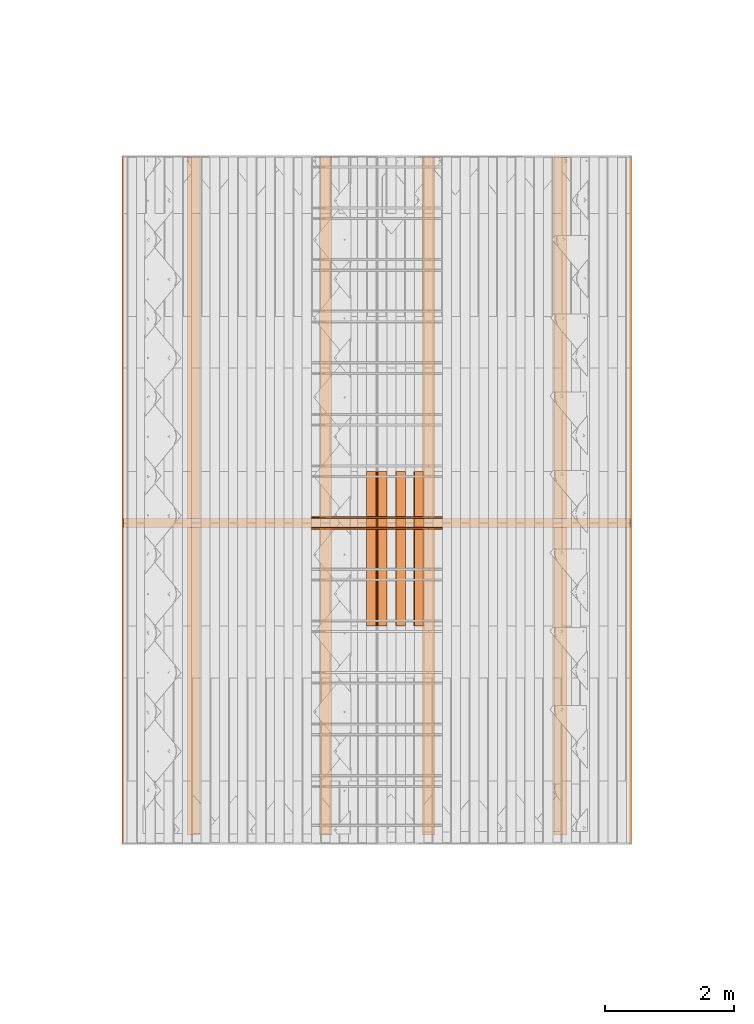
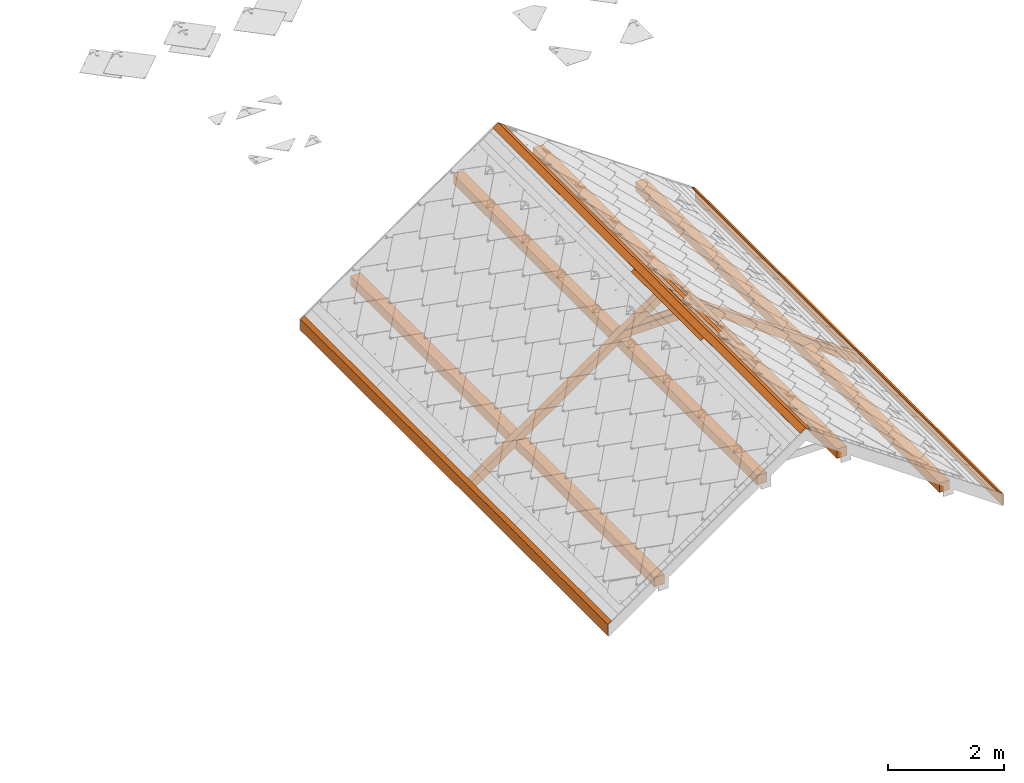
# One storey, part 39 of 133: 9 proxies, 1 element without a shape of its own.
"""IFC2X3 building model written with IfcOpenShell, lengths in millimetres."""

from ifc_helpers import new_model, entity, si_unit, converted_unit, derived_unit, direction, frame, frame_2d, origin, origin_2d_with_axis, place, context, subcontext, project, spatial, polyline, rectangle, outline, extrude, source, transform, mapped, material, type_object, type_shapes, element, aggregate, save


model = new_model("IFC2X3")

# Units and contexts
model_context = context("Model", 3, precision=0.01, world=origin(), true_north=direction((6.12303176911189e-17, 1.0)))
body_context = subcontext(model_context, "Body", "Model", "MODEL_VIEW")
ifc_project = project(units=[si_unit("LENGTHUNIT", "METRE", prefix="MILLI"), si_unit("AREAUNIT", "SQUARE_METRE"), si_unit("VOLUMEUNIT", "CUBIC_METRE"), converted_unit("PLANEANGLEUNIT", "DEGREE", entity("IfcRatioMeasure", 0.0174532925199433), si_unit("PLANEANGLEUNIT", "RADIAN"), dimensions=[0, 0, 0, 0, 0, 0, 0]), si_unit("MASSUNIT", "GRAM", prefix="KILO"), derived_unit("MASSDENSITYUNIT", [(si_unit("MASSUNIT", "GRAM", prefix="KILO"), 1), (si_unit("LENGTHUNIT", "METRE"), -3)]), si_unit("TIMEUNIT", "SECOND"), si_unit("FREQUENCYUNIT", "HERTZ"), si_unit("THERMODYNAMICTEMPERATUREUNIT", "DEGREE_CELSIUS"), derived_unit("THERMALTRANSMITTANCEUNIT", [(si_unit("MASSUNIT", "GRAM", prefix="KILO"), 1), (si_unit("THERMODYNAMICTEMPERATUREUNIT", "KELVIN"), -1), (si_unit("TIMEUNIT", "SECOND"), -3)]), derived_unit("VOLUMETRICFLOWRATEUNIT", [(si_unit("LENGTHUNIT", "METRE"), 3), (si_unit("TIMEUNIT", "SECOND"), -1)]), si_unit("ELECTRICCURRENTUNIT", "AMPERE"), si_unit("ELECTRICVOLTAGEUNIT", "VOLT"), si_unit("POWERUNIT", "WATT"), si_unit("FORCEUNIT", "NEWTON", prefix="KILO"), si_unit("ILLUMINANCEUNIT", "LUX"), si_unit("LUMINOUSFLUXUNIT", "LUMEN"), si_unit("LUMINOUSINTENSITYUNIT", "CANDELA"), derived_unit("USERDEFINED", [(si_unit("MASSUNIT", "GRAM", prefix="KILO"), -1), (si_unit("LENGTHUNIT", "METRE"), -2), (si_unit("TIMEUNIT", "SECOND"), 3), (si_unit("LUMINOUSFLUXUNIT", "LUMEN"), 1)]), derived_unit("LINEARVELOCITYUNIT", [(si_unit("LENGTHUNIT", "METRE"), 1), (si_unit("TIMEUNIT", "SECOND"), -1)]), si_unit("PRESSUREUNIT", "PASCAL"), derived_unit("USERDEFINED", [(si_unit("LENGTHUNIT", "METRE"), -2), (si_unit("MASSUNIT", "GRAM", prefix="KILO"), 1), (si_unit("TIMEUNIT", "SECOND"), -2)])], contexts=[model_context])

# Site, building, storey
site_placement = place(None, origin())
site = spatial("IfcSite", under=ifc_project, at=site_placement, Name="Default", CompositionType="ELEMENT")
building_placement = place(site_placement, origin())
building = spatial("IfcBuilding", under=site, at=building_placement, CompositionType="ELEMENT")
storey_placement = place(building_placement, origin())
storey = spatial("IfcBuildingStorey", under=building, at=storey_placement, Name="Level 1", CompositionType="ELEMENT", Elevation=0.0)

# Assembly, proxies
assembly_placement = place(storey_placement, origin())
assembly = element("IfcElementAssembly", 1, at=assembly_placement, inside=storey, Name="Structural Framing Assembly:Roof Construction Assembly", ObjectType="Structural Framing Assembly:Roof Construction Assembly", AssemblyPlace="NOTDEFINED", PredefinedType="USERDEFINED")
ifc_material_1 = material(Name="Wood - Generic - Wood For Showcase")
building_element_proxy_type_1 = type_object("IfcBuildingElementProxyType", Name="Structural Framing 1", PredefinedType="NOTDEFINED", material=ifc_material_1)
shared_shape_1 = source(origin(), body_context, "Body", "SweptSolid", [
    extrude(outline(polyline([(-929.245683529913, -1327.10037070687), (3863.25950492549, -1327.10037070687), (3975.29271103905, -1167.10037070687), (2778.93361405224, -1167.10037070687), (2713.54351952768, -1260.48710386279), (2580.17344271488, -1167.10037070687), (278.933614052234, -1167.10037070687), (213.543519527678, -1260.48710386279), (80.1734427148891, -1167.10037070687), (-817.212477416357, -1167.10037070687), (-1124.13653843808, -323.833443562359), (-1257.50661525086, -230.446710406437), (-1192.11652072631, -137.059977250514), (-1979.18689675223, 2025.39810840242), (-2112.55697356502, 2118.78484155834), (-2047.16687904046, 2212.17157471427), (-2456.34578886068, 3336.3813899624), (-2568.37899497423, 3176.3813899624), (-929.245683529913, -1327.10037070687)])), frame((1206.77890726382, 3785.55080214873, 1179.90959070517), z_axis=(0.0, 1.0, 0.0), x_axis=(0.819152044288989, 0.0, -0.573576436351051)), (0.0, 0.0, 1.0), 140.0),
])
type_shapes(building_element_proxy_type_1, [shared_shape_1])
proxy_1_placement = place(assembly_placement, frame((0.0, -5600.0, 0.0)))
proxy_1 = element("IfcBuildingElementProxy", 2, at=proxy_1_placement, type_object=building_element_proxy_type_1, material=ifc_material_1, Name="Structural Framing 8:Structural Framing 1", ObjectType="Structural Framing 8:Structural Framing 1", context=body_context, shape_type="MappedRepresentation", body=[
    mapped(shared_shape_1, transform((0.0, 0.0, 0.0), scale=1.0)),
])
building_element_proxy_type_2 = type_object("IfcBuildingElementProxyType", Name="Structural Framing 15", PredefinedType="NOTDEFINED", material=ifc_material_1)
shared_shape_2 = source(origin(), body_context, "Body", "SweptSolid", [
    extrude(rectangle(XDim=24.9999999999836, YDim=174.344679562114, at=frame_2d((2.97539770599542e-13, -4.2632564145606e-14), x_axis=(1.0, 0.0))), frame((1285.35601305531, 1525.55080214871, 2760.23940055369), z_axis=(0.0, 1.0, 0.0), x_axis=(0.573576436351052, 0.0, 0.819152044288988)), (0.0, 0.0, 1.0), 2400.0),
])
type_shapes(building_element_proxy_type_2, [shared_shape_2])
proxy_2_placement = place(assembly_placement, frame((0.0, -4870.0, 0.0)))
proxy_2 = element("IfcBuildingElementProxy", 3, at=proxy_2_placement, type_object=building_element_proxy_type_2, material=ifc_material_1, Name="Structural Framing 157:Structural Framing 15", ObjectType="Structural Framing 157:Structural Framing 15", context=body_context, shape_type="MappedRepresentation", body=[
    mapped(shared_shape_2, transform((0.0, 0.0, 0.0), scale=1.0)),
])
building_element_proxy_type_3 = type_object("IfcBuildingElementProxyType", Name="Structural Framing 15", PredefinedType="NOTDEFINED", material=ifc_material_1)
shared_shape_3 = source(origin(), body_context, "Body", "SweptSolid", [
    extrude(rectangle(XDim=24.9999999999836, YDim=174.344679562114, at=frame_2d((2.97539770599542e-13, -4.2632564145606e-14), x_axis=(1.0, 0.0))), frame((1285.35601305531, 1525.55080214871, 2760.23940055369), z_axis=(0.0, 1.0, 0.0), x_axis=(0.573576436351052, 0.0, 0.819152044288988)), (0.0, 0.0, 1.0), 2400.0),
])
type_shapes(building_element_proxy_type_3, [shared_shape_3])
proxy_3_placement = place(assembly_placement, frame((285.629601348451, -4870.0, -200.0)))
proxy_3 = element("IfcBuildingElementProxy", 4, at=proxy_3_placement, type_object=building_element_proxy_type_3, material=ifc_material_1, Name="Structural Framing 167:Structural Framing 15", ObjectType="Structural Framing 167:Structural Framing 15", context=body_context, shape_type="MappedRepresentation", body=[
    mapped(shared_shape_3, transform((0.0, 0.0, 0.0), scale=1.0)),
])
building_element_proxy_type_4 = type_object("IfcBuildingElementProxyType", Name="Structural Framing 15", PredefinedType="NOTDEFINED", material=ifc_material_1)
shared_shape_4 = source(origin(), body_context, "Body", "SweptSolid", [
    extrude(rectangle(XDim=24.9999999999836, YDim=174.344679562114, at=frame_2d((2.97539770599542e-13, -4.2632564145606e-14), x_axis=(1.0, 0.0))), frame((1285.35601305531, 1525.55080214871, 2760.23940055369), z_axis=(0.0, 1.0, 0.0), x_axis=(0.573576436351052, 0.0, 0.819152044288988)), (0.0, 0.0, 1.0), 2400.0),
])
type_shapes(building_element_proxy_type_4, [shared_shape_4])
proxy_4_placement = place(assembly_placement, frame((571.259202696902, -4870.0, -400.0)))
proxy_4 = element("IfcBuildingElementProxy", 5, at=proxy_4_placement, type_object=building_element_proxy_type_4, material=ifc_material_1, Name="Structural Framing 177:Structural Framing 15", ObjectType="Structural Framing 177:Structural Framing 15", context=body_context, shape_type="MappedRepresentation", body=[
    mapped(shared_shape_4, transform((0.0, 0.0, 0.0), scale=1.0)),
])
building_element_proxy_type_5 = type_object("IfcBuildingElementProxyType", Name="Structural Framing 15", PredefinedType="NOTDEFINED", material=ifc_material_1)
shared_shape_5 = source(origin(), body_context, "Body", "SweptSolid", [
    extrude(rectangle(XDim=24.9999999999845, YDim=174.344679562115, at=frame_2d((-1.77635683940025e-13, -4.54747350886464e-13), x_axis=(0.0, 1.0))), frame((1128.20180147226, 1525.55080214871, 2760.23940055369), z_axis=(0.0, 1.0, 0.0), x_axis=(-0.819152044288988, 0.0, -0.573576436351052)), (0.0, 0.0, 1.0), 2400.0),
])
type_shapes(building_element_proxy_type_5, [shared_shape_5])
proxy_5_placement = place(assembly_placement, frame((0.0, -4870.0, 0.0)))
proxy_5 = element("IfcBuildingElementProxy", 6, at=proxy_5_placement, type_object=building_element_proxy_type_5, material=ifc_material_1, Name="Structural Framing 17:Structural Framing 15", ObjectType="Structural Framing 17:Structural Framing 15", context=body_context, shape_type="MappedRepresentation", body=[
    mapped(shared_shape_5, transform((0.0, 0.0, 0.0), scale=1.0)),
])
building_element_proxy_type_6 = type_object("IfcBuildingElementProxyType", Name="Structural Framing 295", PredefinedType="NOTDEFINED", material=ifc_material_1)
shared_shape_6 = source(origin(), body_context, "Body", "SweptSolid", [
    extrude(rectangle(XDim=10507.4999999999, YDim=200.0, at=frame_2d((0.0, -1.35003119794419e-13), x_axis=(1.0, 0.0))), frame((-1639.01151512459, -1328.19919785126, 456.015556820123), z_axis=(0.0, 0.0, 1.0), x_axis=(0.0, -1.0, 0.0)), (0.0, 0.0, 1.0), 200.0),
    extrude(rectangle(XDim=10507.4999999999, YDim=200.0, at=frame_2d((0.0, -5.47117906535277e-13), x_axis=(1.0, 0.0))), frame((4052.56932965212, -1328.19919785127, 456.015556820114), z_axis=(0.0, 0.0, 1.0), x_axis=(0.0, -1.0, 0.0)), (0.0, 0.0, 1.0), 200.0),
    extrude(rectangle(XDim=10507.4999999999, YDim=200.0, at=origin_2d_with_axis()), frame((408.868595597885, -1328.19919785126, 1889.95664769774), z_axis=(0.0, 0.0, 1.0), x_axis=(0.0, -1.0, 0.0)), (0.0, 0.0, 1.0), 200.000000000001),
    extrude(rectangle(XDim=10507.4999999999, YDim=200.0, at=frame_2d((0.0, 1.35003119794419e-13), x_axis=(1.0, 0.0))), frame((2004.68921892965, -1328.19919785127, 1889.95664769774), z_axis=(0.0, 0.0, 1.0), x_axis=(0.0, -1.0, 0.0)), (0.0, 0.0, 1.0), 200.000000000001),
])
type_shapes(building_element_proxy_type_6, [shared_shape_6])
proxy_6_placement = place(assembly_placement, origin())
proxy_6 = element("IfcBuildingElementProxy", 7, at=proxy_6_placement, type_object=building_element_proxy_type_6, material=ifc_material_1, Name="Structural Framing 295:Structural Framing 295", ObjectType="Structural Framing 295:Structural Framing 295", context=body_context, shape_type="MappedRepresentation", body=[
    mapped(shared_shape_6, transform((0.0, 0.0, 0.0), scale=1.0)),
])
building_element_proxy_type_7 = type_object("IfcBuildingElementProxyType", Name="Structural Framing 296", PredefinedType="NOTDEFINED", material=ifc_material_1)
shared_shape_7 = source(origin(), body_context, "Body", "SweptSolid", [
    extrude(outline(polyline([(-1014.04699829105, -75.0), (1014.04699829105, -75.0), (799.824797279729, 75.0), (-799.824797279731, 75.0), (-1014.04699829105, -75.0)])), frame((1206.77890726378, 3760.55080214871, 2164.95664769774), z_axis=(0.0, 1.0, 0.0), x_axis=(-1.0, 0.0, 0.0)), (0.0, 0.0, 1.0), 24.9999999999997),
])
type_shapes(building_element_proxy_type_7, [shared_shape_7])
proxy_7_placement = place(assembly_placement, frame((0.0, -5600.0, 0.0)))
proxy_7 = element("IfcBuildingElementProxy", 8, at=proxy_7_placement, type_object=building_element_proxy_type_7, material=ifc_material_1, Name="Structural Framing 309:Structural Framing 296", ObjectType="Structural Framing 309:Structural Framing 296", context=body_context, shape_type="MappedRepresentation", body=[
    mapped(shared_shape_7, transform((0.0, 0.0, 0.0), scale=1.0)),
])
building_element_proxy_type_8 = type_object("IfcBuildingElementProxyType", Name="Structural Framing 296", PredefinedType="NOTDEFINED", material=ifc_material_1)
shared_shape_8 = source(origin(), body_context, "Body", "SweptSolid", [
    extrude(outline(polyline([(-1014.04699829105, -75.0), (1014.04699829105, -75.0), (799.824797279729, 75.0), (-799.824797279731, 75.0), (-1014.04699829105, -75.0)])), frame((1206.77890726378, 2325.55080214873, 2164.95664769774), z_axis=(0.0, 1.0, 0.0), x_axis=(-1.0, 0.0, 0.0)), (0.0, 0.0, 1.0), 25.0),
])
type_shapes(building_element_proxy_type_8, [shared_shape_8])
proxy_8_placement = place(assembly_placement, frame((0.0, -4000.0, 0.0)))
proxy_8 = element("IfcBuildingElementProxy", 9, at=proxy_8_placement, type_object=building_element_proxy_type_8, material=ifc_material_1, Name="Structural Framing 310:Structural Framing 296", ObjectType="Structural Framing 310:Structural Framing 296", context=body_context, shape_type="MappedRepresentation", body=[
    mapped(shared_shape_8, transform((0.0, 0.0, 0.0), scale=1.0)),
])
ifc_material_2 = material(Name="Steel - Generic - Black Steel")
building_element_proxy_type_9 = type_object("IfcBuildingElementProxyType", Name="Structural Framing 321", PredefinedType="NOTDEFINED", material=ifc_material_2)
shared_shape_9 = source(origin(), body_context, "Body", "SweptSolid", [
    extrude(outline(polyline([(-54.8959999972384, 10.4195865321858), (170.947298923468, 10.4195865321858), (170.947298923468, 35.4195865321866), (-67.9058971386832, 35.4195865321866), (-119.904373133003, -38.8419333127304), (-99.1883275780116, -52.8364128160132), (-54.8959999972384, 10.4195865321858)])), frame((-2708.59192859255, -6702.90480582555, 26.7553175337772), z_axis=(0.0, 1.0, 0.0), x_axis=(0.0, 0.0, -1.0)), (0.0, 0.0, 1.0), 10628.4556079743),
    extrude(outline(polyline([(22.9518264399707, 50.9445999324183), (100.173143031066, 50.9445999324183), (100.591772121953, 75.9410946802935), (9.9351957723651, 75.9410946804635), (-127.065369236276, -119.71598915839), (-106.586568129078, -134.055400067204), (22.9518264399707, 50.9445999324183)])), frame((5122.14974312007, -6702.90480582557, 26.7553175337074), z_axis=(0.0, 1.0, 0.0), x_axis=(-0.819152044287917, 0.0, 0.573576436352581)), (0.0, 0.0, 1.0), 10628.4556079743),
    extrude(outline(polyline([(25.3285986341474, -99.0490595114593), (50.3285986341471, -99.0490595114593), (52.582318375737, 35.5213631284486), (-73.1016972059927, 83.6649621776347), (-82.434060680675, 60.4721401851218), (27.2962422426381, 18.4396535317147), (25.3285986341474, -99.0490595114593)])), frame((1206.77890726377, -6702.90480582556, 2797.57842267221), z_axis=(0.0, 1.0, 0.0), x_axis=(-0.559779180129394, 0.0, 0.828641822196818)), (0.0, 0.0, 1.0), 10628.4556079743),
])
type_shapes(building_element_proxy_type_9, [shared_shape_9])
proxy_9_placement = place(assembly_placement, origin())
proxy_9 = element("IfcBuildingElementProxy", 10, at=proxy_9_placement, type_object=building_element_proxy_type_9, material=ifc_material_2, Name="Structural Framing 321:Structural Framing 321", ObjectType="Structural Framing 321:Structural Framing 321", context=body_context, shape_type="MappedRepresentation", body=[
    mapped(shared_shape_9, transform((0.0, 0.0, 0.0), scale=1.0)),
])
aggregate(assembly, [proxy_1, proxy_2, proxy_3, proxy_4, proxy_5, proxy_6, proxy_7, proxy_8, proxy_9])

save(model, "model.ifc")
